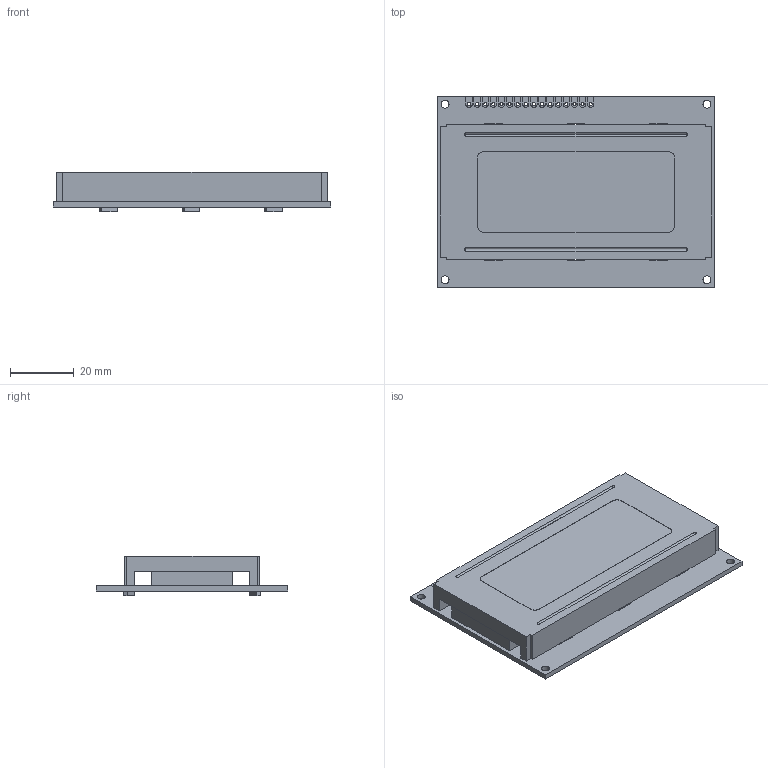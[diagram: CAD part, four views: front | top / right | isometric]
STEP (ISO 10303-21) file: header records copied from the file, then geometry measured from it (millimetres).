
FILE_DESCRIPTION (( 'STEP AP214' ), '1' );
FILE_NAME ('User Library-FDCC1604A.STEP', '2025-07-10T04:36:53', ( '' ), ( '' ), 'SwSTEP 2.0', 'SolidWorks 2022', '' );
FILE_SCHEMA (( 'AUTOMOTIVE_DESIGN' ));
Length unit declared in the file: millimetre
Products named in the file (7): FDCC1604A; User Library-FDCC1604A; FDCC1604A025; FDCC1604A001; FDCC1604A018; Fusion001; Fusion
Assembly tree (6 placements, depth 2):
  User Library-FDCC1604A
    FDCC1604A001
    FDCC1604A
    FDCC1604A025
    Fusion001
    Fusion
    FDCC1604A018
Bounding box: 87 x 60 x 12.4 mm (x, y, z)
Volume: 32531.2 mm3; surface area: 29630.1 mm2
Topology: 25 solids, 26 shells, 315 faces, 795 edges, 530 vertices
Faces by surface type: plane 196, cylinder 115, bspline 4
Entity records: 13695 total; most frequent: CARTESIAN_POINT 1798, DIRECTION 1663, ORIENTED_EDGE 1582, EDGE_CURVE 795, AXIS2_PLACEMENT_3D 555, LINE 553, VECTOR 553, VERTEX_POINT 530
